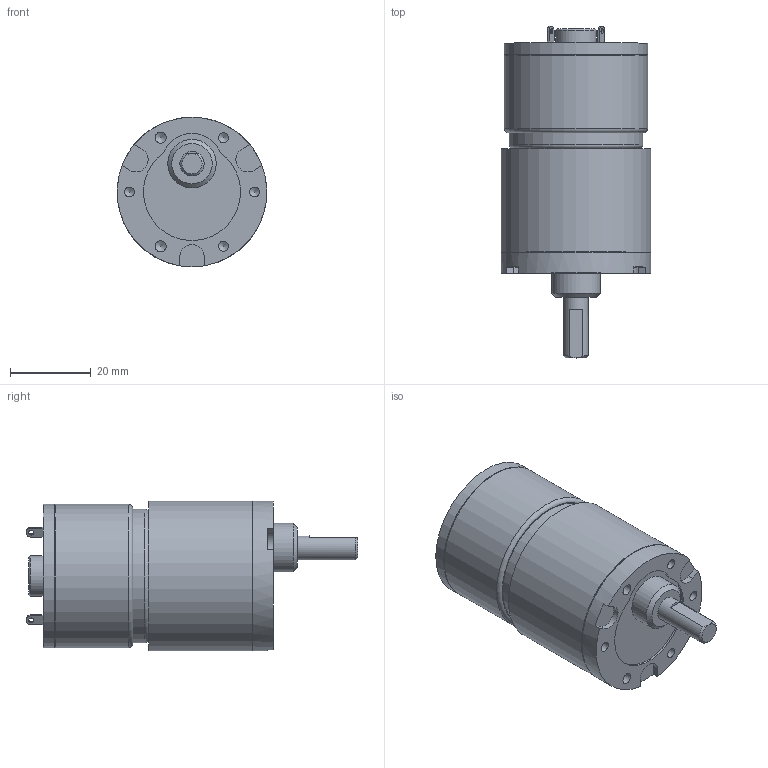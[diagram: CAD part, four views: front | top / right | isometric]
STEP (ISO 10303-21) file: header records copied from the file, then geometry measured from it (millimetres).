
FILE_DESCRIPTION((''),'2;1');
FILE_NAME('C:\Documents and Settings\SSEGAWA\デスクトップ\TP-3526A-KS-5.STP','2013-07-05T16:02:28',('SSEGAWA'),(''),'Autodesk Inventor 2010','Autodesk Inventor 2010','');
FILE_SCHEMA(('CONFIG_CONTROL_DESIGN'));
Length unit declared in the file: millimetre
Products named in the file (3): tp_3526abcj_ks_5; ks_5; tp_3526a,b,c,j
Assembly tree (2 placements, depth 2):
  tp_3526abcj_ks_5
    ks_5
    tp_3526a,b,c,j
Bounding box: 37 x 82.1 x 37 mm (x, y, z)
Volume: 59292.5 mm3; surface area: 11845.2 mm2
Topology: 3 solids, 3 shells, 82 faces, 188 edges, 125 vertices
Faces by surface type: plane 36, bspline 21, cylinder 20, torus 3, cone 2
Full cylindrical faces by diameter (mm): 2 x1, 4 x1, 6 x1, 10 x2, 12 x1, 33 x1, 35 x1, 35.4 x2, 36.6 x1, 37 x2
Entity records: 2313 total; most frequent: CARTESIAN_POINT 700, DIRECTION 329, ORIENTED_EDGE 250, AXIS2_PLACEMENT_3D 140, EDGE_LOOP 137, EDGE_CURVE 125, VERTEX_POINT 100, FACE_OUTER_BOUND 82
